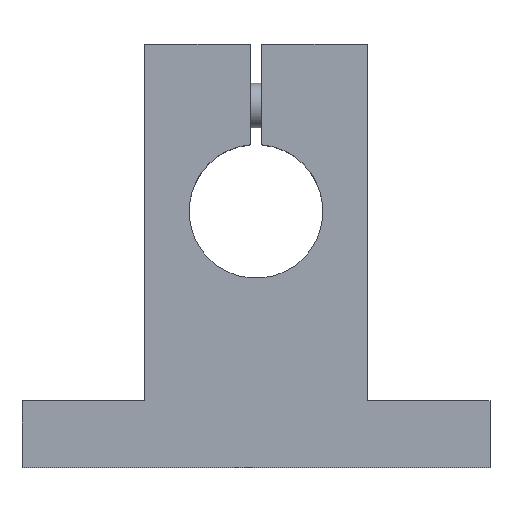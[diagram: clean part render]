
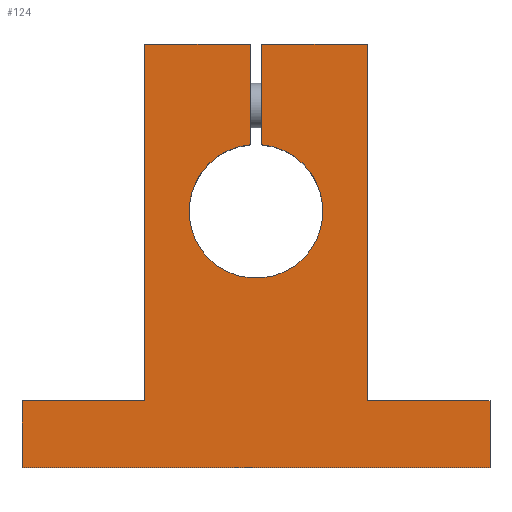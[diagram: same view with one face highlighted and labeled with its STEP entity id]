
A CAD part, top view. The second image highlights one B-rep face of the part: STEP entity #124.
In plain terms, the highlighted planar face has unit normal (0, 0, 1).
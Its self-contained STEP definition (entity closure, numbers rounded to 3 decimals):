
#124=ADVANCED_FACE('',(#160),#161,.F.);
#160=FACE_OUTER_BOUND('',#248,.T.);
#161=PLANE('',#249);
#248=EDGE_LOOP('',(#341,#342,#343,#344,#345,#346,#347,#348,#349,#350,#351,#352));
#249=AXIS2_PLACEMENT_3D('',#353,#354,#355);
#341=ORIENTED_EDGE('',*,*,#580,.T.);
#342=ORIENTED_EDGE('',*,*,#581,.T.);
#343=ORIENTED_EDGE('',*,*,#582,.T.);
#344=ORIENTED_EDGE('',*,*,#583,.T.);
#345=ORIENTED_EDGE('',*,*,#584,.T.);
#346=ORIENTED_EDGE('',*,*,#585,.T.);
#347=ORIENTED_EDGE('',*,*,#586,.T.);
#348=ORIENTED_EDGE('',*,*,#587,.T.);
#349=ORIENTED_EDGE('',*,*,#588,.T.);
#350=ORIENTED_EDGE('',*,*,#589,.T.);
#351=ORIENTED_EDGE('',*,*,#590,.T.);
#352=ORIENTED_EDGE('',*,*,#578,.T.);
#353=CARTESIAN_POINT('',(0.,23.0,14.0));
#354=DIRECTION('',(0.0,0.0,-1.0));
#355=DIRECTION('',(0.083,0.997,0.0));
#578=EDGE_CURVE('',#651,#649,#652,.T.);
#580=EDGE_CURVE('',#649,#654,#655,.T.);
#581=EDGE_CURVE('',#654,#656,#657,.T.);
#582=EDGE_CURVE('',#656,#658,#659,.T.);
#583=EDGE_CURVE('',#658,#660,#661,.T.);
#584=EDGE_CURVE('',#660,#662,#663,.T.);
#585=EDGE_CURVE('',#662,#664,#665,.T.);
#586=EDGE_CURVE('',#664,#666,#667,.T.);
#587=EDGE_CURVE('',#666,#668,#669,.T.);
#588=EDGE_CURVE('',#668,#670,#671,.T.);
#589=EDGE_CURVE('',#670,#672,#673,.T.);
#590=EDGE_CURVE('',#672,#651,#674,.T.);
#649=VERTEX_POINT('',#772);
#651=VERTEX_POINT('',#775);
#652=LINE('',#776,#777);
#654=VERTEX_POINT('',#780);
#655=LINE('',#781,#782);
#656=VERTEX_POINT('',#783);
#657=CIRCLE('',#784,6.0);
#658=VERTEX_POINT('',#785);
#659=LINE('',#786,#787);
#660=VERTEX_POINT('',#788);
#661=LINE('',#789,#790);
#662=VERTEX_POINT('',#791);
#663=LINE('',#792,#793);
#664=VERTEX_POINT('',#794);
#665=LINE('',#795,#796);
#666=VERTEX_POINT('',#797);
#667=LINE('',#798,#799);
#668=VERTEX_POINT('',#800);
#669=LINE('',#801,#802);
#670=VERTEX_POINT('',#803);
#671=LINE('',#804,#805);
#672=VERTEX_POINT('',#806);
#673=LINE('',#807,#808);
#674=LINE('',#809,#810);
#772=CARTESIAN_POINT('',(0.5,38.0,14.0));
#775=CARTESIAN_POINT('',(10.0,38.0,14.0));
#776=CARTESIAN_POINT('',(10.0,38.0,14.0));
#777=VECTOR('',#977,1.0);
#780=CARTESIAN_POINT('',(0.5,28.979,14.0));
#781=CARTESIAN_POINT('',(0.5,38.0,14.0));
#782=VECTOR('',#979,1.0);
#783=CARTESIAN_POINT('',(-0.5,28.979,14.0));
#784=AXIS2_PLACEMENT_3D('',#980,#981,#982);
#785=CARTESIAN_POINT('',(-0.5,38.0,14.0));
#786=CARTESIAN_POINT('',(-0.5,28.979,14.0));
#787=VECTOR('',#983,1.0);
#788=CARTESIAN_POINT('',(-10.0,38.0,14.0));
#789=CARTESIAN_POINT('',(-0.5,38.0,14.0));
#790=VECTOR('',#984,1.0);
#791=CARTESIAN_POINT('',(-10.0,6.0,14.0));
#792=CARTESIAN_POINT('',(-10.0,38.0,14.0));
#793=VECTOR('',#985,1.0);
#794=CARTESIAN_POINT('',(-21.0,6.0,14.0));
#795=CARTESIAN_POINT('',(-10.0,6.0,14.0));
#796=VECTOR('',#986,1.0);
#797=CARTESIAN_POINT('',(-21.0,0.,14.0));
#798=CARTESIAN_POINT('',(-21.0,6.0,14.0));
#799=VECTOR('',#987,1.0);
#800=CARTESIAN_POINT('',(21.0,0.,14.0));
#801=CARTESIAN_POINT('',(-21.0,0.,14.0));
#802=VECTOR('',#988,1.0);
#803=CARTESIAN_POINT('',(21.0,6.0,14.0));
#804=CARTESIAN_POINT('',(21.0,0.,14.0));
#805=VECTOR('',#989,1.0);
#806=CARTESIAN_POINT('',(10.0,6.0,14.0));
#807=CARTESIAN_POINT('',(21.0,6.0,14.0));
#808=VECTOR('',#990,1.0);
#809=CARTESIAN_POINT('',(10.0,6.0,14.0));
#810=VECTOR('',#991,1.0);
#977=DIRECTION('',(-1.0,0.0,0.0));
#979=DIRECTION('',(0.,-1.0,0.0));
#980=CARTESIAN_POINT('',(0.,23.0,14.0));
#981=DIRECTION('',(0.0,0.0,-1.0));
#982=DIRECTION('',(1.0,0.,0.0));
#983=DIRECTION('',(0.,1.0,0.0));
#984=DIRECTION('',(-1.0,0.0,0.0));
#985=DIRECTION('',(0.,-1.0,0.0));
#986=DIRECTION('',(-1.0,0.0,0.0));
#987=DIRECTION('',(0.,-1.0,0.0));
#988=DIRECTION('',(1.0,0.0,0.0));
#989=DIRECTION('',(0.,1.0,0.0));
#990=DIRECTION('',(-1.0,0.0,0.0));
#991=DIRECTION('',(0.,1.0,0.0));
